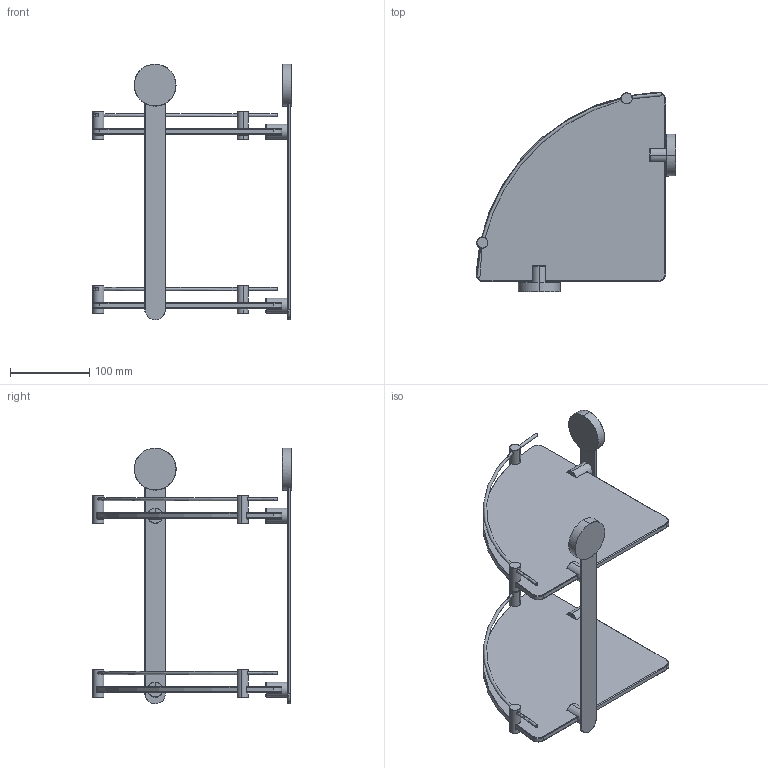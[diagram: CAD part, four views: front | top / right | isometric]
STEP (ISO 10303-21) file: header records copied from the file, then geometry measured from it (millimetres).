
FILE_DESCRIPTION(('THIS FILE CONTAINS SOME STEP INSTANCES'),'1');
FILE_NAME('HAR 040-light.stp','2015-11-18T 8:17:23',('UNDEFINED'),('UNDEFINED'),'T-FLEX CAD STEP converter','T-FLEX CAD','');
FILE_SCHEMA(('CONFIG_CONTROL_DESIGN'));
Length unit declared in the file: metre
Products named in the file (6): har_040; 砱鋋_88; 砱鋋_90
Bounding box: 252.77 x 252.77 x 323.49 mm (x, y, z)
Volume: 772322.3 mm3; surface area: 258343.6 mm2
Topology: 6 solids, 6 shells, 356 faces, 770 edges, 438 vertices
Faces by surface type: plane 156, cone 84, bspline 80, cylinder 30, torus 6
Entity records: 17234 total; most frequent: CARTESIAN_POINT 10374, ORIENTED_EDGE 1516, DIRECTION 1144, EDGE_CURVE 758, VERTEX_POINT 432, LINE 424, VECTOR 424, EDGE_LOOP 374
